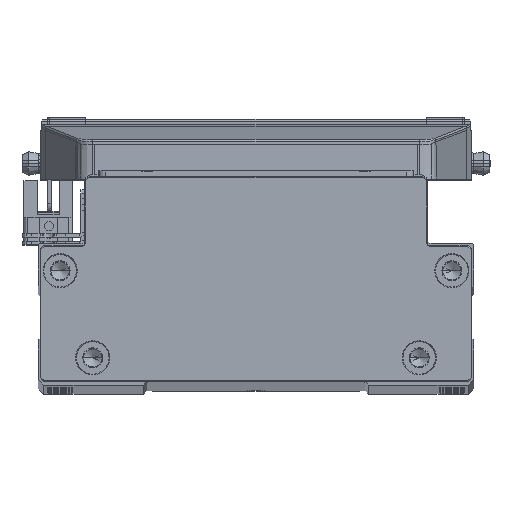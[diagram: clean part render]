
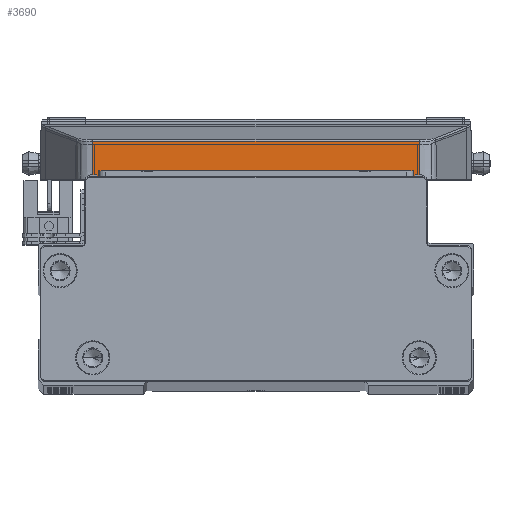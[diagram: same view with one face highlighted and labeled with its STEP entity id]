
A CAD part, top view. The second image highlights one B-rep face of the part: STEP entity #3690.
In plain terms, the highlighted planar face has unit normal (0, 0.018, 1) as drawn and (0, 0.017, -1) by its records, which use the part's own axes.
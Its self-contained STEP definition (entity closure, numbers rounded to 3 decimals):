
#292 = DIRECTION ( 'NONE',  ( -1., 0., 0. ) ) ;
#1973 = ORIENTED_EDGE ( 'NONE', *, *, #9320, .T. ) ;
#2054 = CARTESIAN_POINT ( 'NONE',  ( 278.636, 359.211, 552.9 ) ) ;
#3690 = ADVANCED_FACE ( 'NONE', ( #12450 ), #19133, .T. ) ;
#4569 = CARTESIAN_POINT ( 'NONE',  ( 277.241, 348.838, 552.719 ) ) ;
#4811 = CARTESIAN_POINT ( 'NONE',  ( 188.745, -499000., -8163.448 ) ) ;
#5866 = VERTEX_POINT ( 'NONE', #32739 ) ;
#6358 = CARTESIAN_POINT ( 'NONE',  ( 191.19, 350.338, 552.745 ) ) ;
#7139 = LINE ( 'NONE', #51808, #37848 ) ;
#9320 = EDGE_CURVE ( 'NONE', #13931, #45131, #38355, .T. ) ;
#9366 = LINE ( 'NONE', #29547, #36135 ) ;
#10976 = DIRECTION ( 'NONE',  ( -0.574, -0.819, -0.014 ) ) ;
#11669 = DIRECTION ( 'NONE',  ( -1., 0., 0. ) ) ;
#12000 = ORIENTED_EDGE ( 'NONE', *, *, #46375, .F. ) ;
#12306 = CARTESIAN_POINT ( 'NONE',  ( 276.19, 350.338, 552.745 ) ) ;
#12420 = AXIS2_PLACEMENT_3D ( 'NONE', #19517, #49416, #35976 ) ;
#12450 = FACE_OUTER_BOUND ( 'NONE', #54252, .T. ) ;
#12551 = LINE ( 'NONE', #4811, #25232 ) ;
#12995 = EDGE_CURVE ( 'NONE', #14781, #50462, #19494, .T. ) ;
#13931 = VERTEX_POINT ( 'NONE', #4569 ) ;
#14781 = VERTEX_POINT ( 'NONE', #26854 ) ;
#15808 = CARTESIAN_POINT ( 'NONE',  ( 190.14, 348.838, 552.719 ) ) ;
#17253 = VECTOR ( 'NONE', #10976, 1000. ) ;
#17825 = EDGE_CURVE ( 'NONE', #14781, #13931, #22911, .T. ) ;
#19133 = PLANE ( 'NONE',  #12420 ) ;
#19494 = LINE ( 'NONE', #30582, #21188 ) ;
#19517 = CARTESIAN_POINT ( 'NONE',  ( 174.19, 348.838, 552.719 ) ) ;
#19795 = VECTOR ( 'NONE', #53799, 1000. ) ;
#20135 = EDGE_CURVE ( 'NONE', #45131, #31184, #9366, .T. ) ;
#21188 = VECTOR ( 'NONE', #44611, 1000. ) ;
#21490 = CARTESIAN_POINT ( 'NONE',  ( 188.745, 348.838, 552.719 ) ) ;
#22911 = LINE ( 'NONE', #33512, #45679 ) ;
#24115 = ORIENTED_EDGE ( 'NONE', *, *, #37257, .F. ) ;
#24403 = ORIENTED_EDGE ( 'NONE', *, *, #20135, .T. ) ;
#25232 = VECTOR ( 'NONE', #52247, 1000. ) ;
#25331 = EDGE_CURVE ( 'NONE', #53862, #31557, #7139, .T. ) ;
#26854 = CARTESIAN_POINT ( 'NONE',  ( 278.636, 348.838, 552.719 ) ) ;
#27664 = DIRECTION ( 'NONE',  ( -0.574, 0.819, 0.014 ) ) ;
#29547 = CARTESIAN_POINT ( 'NONE',  ( 174.19, 350.338, 552.745 ) ) ;
#30102 = ORIENTED_EDGE ( 'NONE', *, *, #38528, .T. ) ;
#30582 = CARTESIAN_POINT ( 'NONE',  ( 278.636, -499000., -8163.448 ) ) ;
#31184 = VERTEX_POINT ( 'NONE', #47229 ) ;
#31557 = VERTEX_POINT ( 'NONE', #21490 ) ;
#32739 = CARTESIAN_POINT ( 'NONE',  ( 188.745, 359.211, 552.9 ) ) ;
#33512 = CARTESIAN_POINT ( 'NONE',  ( 174.19, 348.838, 552.719 ) ) ;
#34169 = ORIENTED_EDGE ( 'NONE', *, *, #12995, .F. ) ;
#34623 = DIRECTION ( 'NONE',  ( -1., 0., 0. ) ) ;
#35976 = DIRECTION ( 'NONE',  ( 0., 1., 0.017 ) ) ;
#36135 = VECTOR ( 'NONE', #34623, 1000. ) ;
#37257 = EDGE_CURVE ( 'NONE', #5866, #31557, #12551, .T. ) ;
#37848 = VECTOR ( 'NONE', #292, 1000. ) ;
#38355 = LINE ( 'NONE', #53292, #40319 ) ;
#38528 = EDGE_CURVE ( 'NONE', #31184, #53862, #46688, .T. ) ;
#39221 = LINE ( 'NONE', #40900, #19795 ) ;
#40319 = VECTOR ( 'NONE', #27664, 1000. ) ;
#40900 = CARTESIAN_POINT ( 'NONE',  ( 174.19, 359.211, 552.9 ) ) ;
#41976 = ORIENTED_EDGE ( 'NONE', *, *, #25331, .T. ) ;
#42823 = ORIENTED_EDGE ( 'NONE', *, *, #17825, .T. ) ;
#44611 = DIRECTION ( 'NONE',  ( 0., 1., 0.017 ) ) ;
#45131 = VERTEX_POINT ( 'NONE', #12306 ) ;
#45679 = VECTOR ( 'NONE', #11669, 1000. ) ;
#46375 = EDGE_CURVE ( 'NONE', #50462, #5866, #39221, .T. ) ;
#46688 = LINE ( 'NONE', #6358, #17253 ) ;
#47229 = CARTESIAN_POINT ( 'NONE',  ( 191.19, 350.338, 552.745 ) ) ;
#49416 = DIRECTION ( 'NONE',  ( 0., 0.017, -1. ) ) ;
#50462 = VERTEX_POINT ( 'NONE', #2054 ) ;
#51808 = CARTESIAN_POINT ( 'NONE',  ( 174.19, 348.838, 552.719 ) ) ;
#52247 = DIRECTION ( 'NONE',  ( 0., -1., -0.017 ) ) ;
#53292 = CARTESIAN_POINT ( 'NONE',  ( 277.241, 348.838, 552.719 ) ) ;
#53799 = DIRECTION ( 'NONE',  ( -1., 0., 0. ) ) ;
#53862 = VERTEX_POINT ( 'NONE', #15808 ) ;
#54252 = EDGE_LOOP ( 'NONE', ( #30102, #41976, #24115, #12000, #34169, #42823, #1973, #24403 ) ) ;
